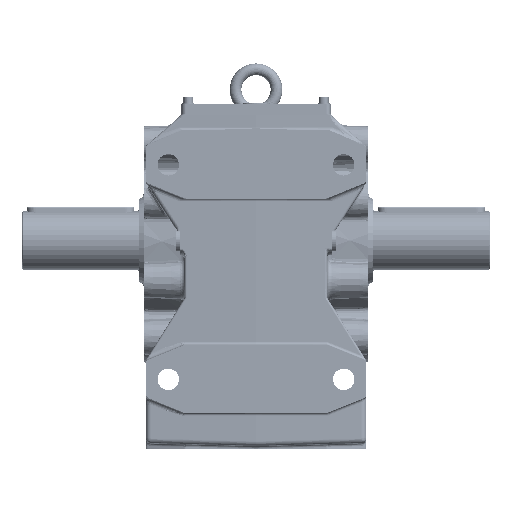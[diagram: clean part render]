
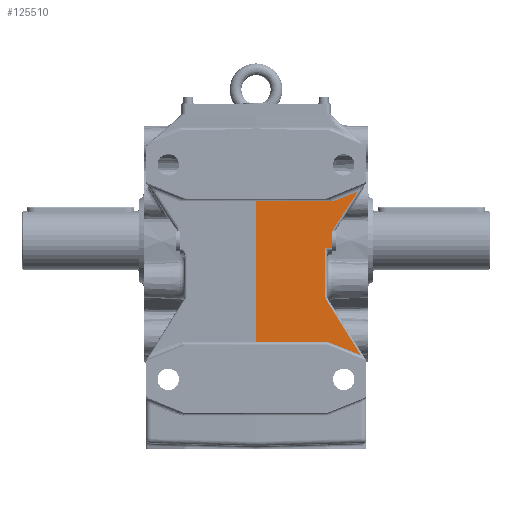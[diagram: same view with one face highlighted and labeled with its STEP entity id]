
A CAD part, left-side view. The second image highlights one B-rep face of the part: STEP entity #125510.
In plain terms, the highlighted planar face has unit normal (-1, -0.026, 0).
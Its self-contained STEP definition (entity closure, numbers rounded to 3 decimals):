
#65082=CARTESIAN_POINT('',(-128.064,-70.565,-46.049));
#65083=VERTEX_POINT('',#65082);
#65108=CARTESIAN_POINT('',(-128.064,-70.565,-8.048));
#65109=VERTEX_POINT('',#65108);
#65119=CARTESIAN_POINT('',(-128.064,-70.565,-8.048));
#65120=DIRECTION('',(0.0,0.0,-1.0));
#65121=VECTOR('',#65120,38.001);
#65122=LINE('',#65119,#65121);
#65123=EDGE_CURVE('',#65109,#65083,#65122,.T.);
#65165=CARTESIAN_POINT('',(-127.177,-104.418,50.274));
#65166=VERTEX_POINT('',#65165);
#65174=CARTESIAN_POINT('',(-127.854,-78.565,10.465));
#65175=VERTEX_POINT('',#65174);
#65176=CARTESIAN_POINT('',(-127.177,-104.418,50.274));
#65177=DIRECTION('',(-0.014,0.545,-0.839));
#65178=VECTOR('',#65177,47.472);
#65179=LINE('',#65176,#65178);
#65180=EDGE_CURVE('',#65166,#65175,#65179,.T.);
#65521=CARTESIAN_POINT('',(-127.85,-78.733,40.));
#65522=VERTEX_POINT('',#65521);
#65536=CARTESIAN_POINT('',(-127.85,-78.733,40.));
#65537=DIRECTION('',(0.024,-0.928,0.371));
#65538=VECTOR('',#65537,27.672);
#65539=LINE('',#65536,#65538);
#65540=EDGE_CURVE('',#65522,#65166,#65539,.T.);
#71665=CARTESIAN_POINT('',(-129.912,0.,40.));
#71666=VERTEX_POINT('',#71665);
#71674=CARTESIAN_POINT('',(-129.912,0.,40.));
#71675=DIRECTION('',(0.026,-1.,0.));
#71676=VECTOR('',#71675,78.76);
#71677=LINE('',#71674,#71676);
#71678=EDGE_CURVE('',#71666,#65522,#71677,.T.);
#85507=CARTESIAN_POINT('',(-127.987,-73.499,-104.));
#85508=VERTEX_POINT('',#85507);
#85516=CARTESIAN_POINT('',(-129.912,0.,-104.));
#85517=VERTEX_POINT('',#85516);
#85518=CARTESIAN_POINT('',(-127.987,-73.499,-104.));
#85519=DIRECTION('',(-0.026,1.,0.));
#85520=VECTOR('',#85519,73.524);
#85521=LINE('',#85518,#85520);
#85522=EDGE_CURVE('',#85508,#85517,#85521,.T.);
#85681=CARTESIAN_POINT('',(-127.103,-107.26,-117.504));
#85682=VERTEX_POINT('',#85681);
#85690=CARTESIAN_POINT('',(-127.103,-107.26,-117.504));
#85691=DIRECTION('',(-0.024,0.928,0.371));
#85692=VECTOR('',#85691,36.372);
#85693=LINE('',#85690,#85692);
#85694=EDGE_CURVE('',#85682,#85508,#85693,.T.);
#85878=CARTESIAN_POINT('',(-128.024,-72.087,-61.215));
#85879=VERTEX_POINT('',#85878);
#85887=CARTESIAN_POINT('',(-128.024,-72.087,-61.215));
#85888=DIRECTION('',(0.014,-0.53,-0.848));
#85889=VECTOR('',#85888,66.381);
#85890=LINE('',#85887,#85889);
#85891=EDGE_CURVE('',#85879,#85682,#85890,.T.);
#85964=CARTESIAN_POINT('',(-128.064,-70.565,-46.049));
#85965=CARTESIAN_POINT('',(-128.064,-70.566,-46.058));
#85966=CARTESIAN_POINT('',(-128.064,-70.566,-46.068));
#85967=CARTESIAN_POINT('',(-128.063,-70.588,-47.1));
#85968=CARTESIAN_POINT('',(-128.062,-70.632,-49.146));
#85969=CARTESIAN_POINT('',(-128.06,-70.692,-51.703));
#85970=CARTESIAN_POINT('',(-128.059,-70.752,-53.749));
#85971=CARTESIAN_POINT('',(-128.057,-70.805,-55.283));
#85972=CARTESIAN_POINT('',(-128.055,-70.883,-56.815));
#85973=CARTESIAN_POINT('',(-128.052,-71.009,-58.347));
#85974=CARTESIAN_POINT('',(-128.043,-71.364,-59.847));
#85975=CARTESIAN_POINT('',(-128.031,-71.815,-60.781));
#85976=CARTESIAN_POINT('',(-128.024,-72.087,-61.215));
#85977=B_SPLINE_CURVE_WITH_KNOTS('',3,(#85964,#85965,#85966,#85967,#85968,#85969,#85970,#85971,#85972,#85973,#85974,#85975,#85976),.UNSPECIFIED.,.F.,.U.,(4,2,1,1,1,1,1,1,1,4),(-0.003,0.0,0.307,0.614,0.767,0.921,1.074,1.228,1.381,1.535),.UNSPECIFIED.);
#85978=EDGE_CURVE('',#65083,#85879,#85977,.T.);
#125441=CARTESIAN_POINT('',(-127.854,-78.565,9.191));
#125442=VERTEX_POINT('',#125441);
#125455=CARTESIAN_POINT('',(-127.854,-78.565,10.465));
#125456=DIRECTION('',(0.0,0.0,-1.0));
#125457=VECTOR('',#125456,1.274);
#125458=LINE('',#125455,#125457);
#125459=EDGE_CURVE('',#65175,#125442,#125458,.T.);
#125464=CARTESIAN_POINT('',(-129.911,-0.025,-208.));
#125465=DIRECTION('',(-1.,-0.026,0.));
#125466=DIRECTION('',(0.0,0.0,1.0));
#125467=AXIS2_PLACEMENT_3D('',#125464,#125465,#125466);
#125468=PLANE('',#125467);
#125469=CARTESIAN_POINT('',(-127.869,-78.,-8.274));
#125470=VERTEX_POINT('',#125469);
#125471=CARTESIAN_POINT('',(-127.869,-78.,9.172));
#125472=VERTEX_POINT('',#125471);
#125473=CARTESIAN_POINT('',(-127.869,-78.,-8.274));
#125474=DIRECTION('',(0.0,0.0,1.0));
#125475=VECTOR('',#125474,17.446);
#125476=LINE('',#125473,#125475);
#125477=EDGE_CURVE('',#125470,#125472,#125476,.T.);
#125478=ORIENTED_EDGE('',*,*,#125477,.T.);
#125479=CARTESIAN_POINT('',(-116.,-531.262,0.));
#125480=DIRECTION('',(1.,0.026,0.));
#125481=DIRECTION('',(-0.026,1.,0.));
#125482=AXIS2_PLACEMENT_3D('',#125479,#125480,#125481);
#125483=ELLIPSE('',#125482,573.023,15.);
#125484=EDGE_CURVE('',#125472,#125442,#125483,.T.);
#125485=ORIENTED_EDGE('',*,*,#125484,.T.);
#125486=ORIENTED_EDGE('',*,*,#125459,.F.);
#125487=ORIENTED_EDGE('',*,*,#65180,.F.);
#125488=ORIENTED_EDGE('',*,*,#65540,.F.);
#125489=ORIENTED_EDGE('',*,*,#71678,.F.);
#125490=CARTESIAN_POINT('',(-129.912,0.,40.));
#125491=DIRECTION('',(0.0,0.0,-1.0));
#125492=VECTOR('',#125491,144.0);
#125493=LINE('',#125490,#125492);
#125494=EDGE_CURVE('',#71666,#85517,#125493,.T.);
#125495=ORIENTED_EDGE('',*,*,#125494,.T.);
#125496=ORIENTED_EDGE('',*,*,#85522,.F.);
#125497=ORIENTED_EDGE('',*,*,#85694,.F.);
#125498=ORIENTED_EDGE('',*,*,#85891,.F.);
#125499=ORIENTED_EDGE('',*,*,#85978,.F.);
#125500=ORIENTED_EDGE('',*,*,#65123,.F.);
#125501=CARTESIAN_POINT('',(-118.499,-435.823,0.));
#125502=DIRECTION('',(1.,0.026,0.));
#125503=DIRECTION('',(-0.026,1.,0.));
#125504=AXIS2_PLACEMENT_3D('',#125501,#125502,#125503);
#125505=ELLIPSE('',#125504,477.519,12.5);
#125506=EDGE_CURVE('',#125470,#65109,#125505,.T.);
#125507=ORIENTED_EDGE('',*,*,#125506,.F.);
#125508=EDGE_LOOP('',(#125478,#125485,#125486,#125487,#125488,#125489,#125495,#125496,#125497,#125498,#125499,#125500,#125507));
#125509=FACE_OUTER_BOUND('',#125508,.T.);
#125510=ADVANCED_FACE('',(#125509),#125468,.T.);
